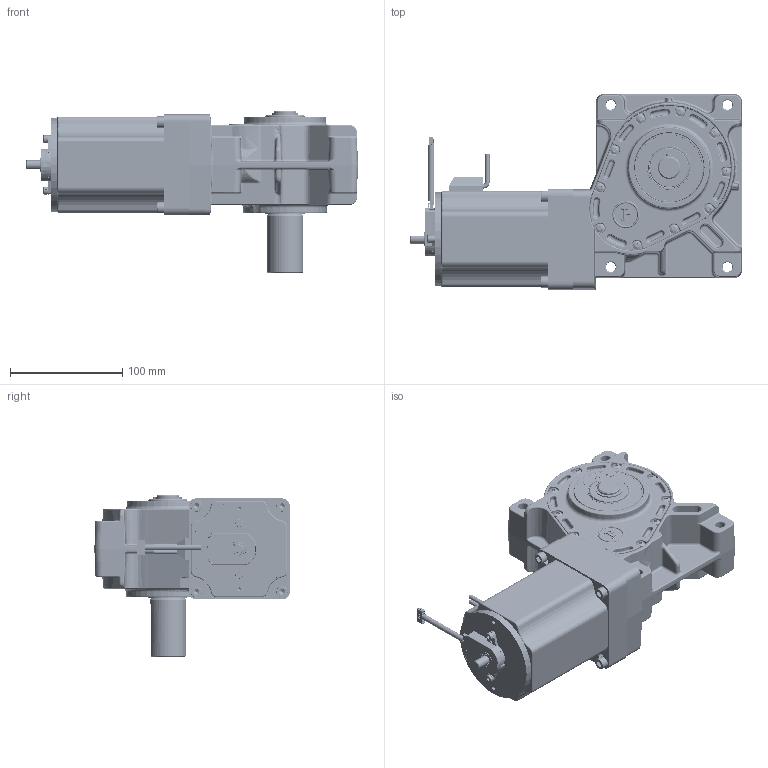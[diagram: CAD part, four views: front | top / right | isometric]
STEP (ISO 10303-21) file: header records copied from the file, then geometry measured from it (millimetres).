
FILE_DESCRIPTION (( 'STEP AP214' ), '1' );
FILE_NAME ('PBL86-55-GB65 - Encoder - Shaft.STEP', '2024-09-15T08:51:32', ( '' ), ( '' ), 'SwSTEP 2.0', 'SolidWorks 2023', '' );
FILE_SCHEMA (( 'AUTOMOTIVE_DESIGN' ));
Length unit declared in the file: millimetre
Products named in the file (1): PBL86-55-GB65 - Encoder - Shaft
Bounding box: 295.95 x 174.1 x 145 mm (x, y, z)
Surface area: 409512.3 mm2 (no closed solid volume)
Topology: 0 solids, 87 shells, 7638 faces, 19596 edges, 12148 vertices
Faces by surface type: plane 2577, cylinder 2066, bspline 1334, cone 795, torus 710, sphere 156
Entity records: 392131 total; most frequent: CARTESIAN_POINT 140028, ORIENTED_EDGE 38590, DIRECTION 29831, EDGE_CURVE 19297, VERTEX_POINT 12128, AXIS2_PLACEMENT_3D 12080, EDGE_LOOP 8209, UNCERTAINTY_MEASURE_WITH_UNIT 7697
